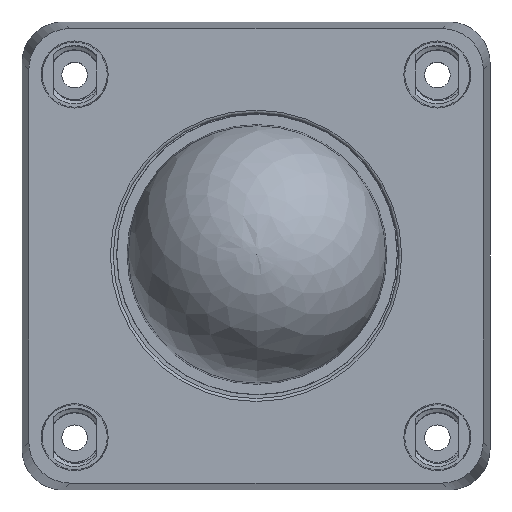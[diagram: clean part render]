
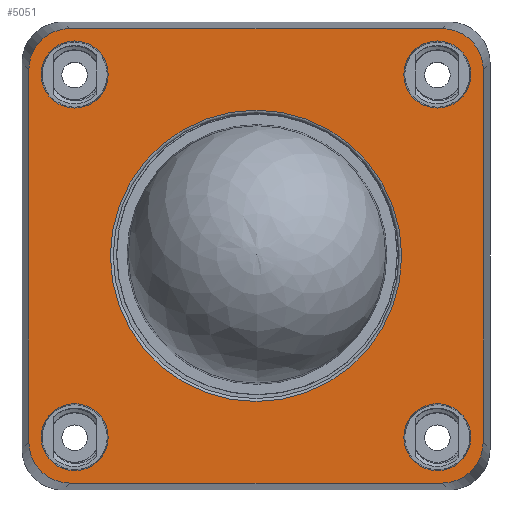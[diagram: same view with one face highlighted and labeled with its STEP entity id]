
A CAD part, top view. The second image highlights one B-rep face of the part: STEP entity #5051.
In plain terms, the highlighted planar face has unit normal (0, 0, 1).
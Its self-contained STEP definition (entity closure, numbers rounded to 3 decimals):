
#4442 = EDGE_CURVE('',#4443,#4445,#4447,.T.);
#4443 = VERTEX_POINT('',#4444);
#4444 = CARTESIAN_POINT('',(-38.998,-32.106,
    -26.9));
#4445 = VERTEX_POINT('',#4446);
#4446 = CARTESIAN_POINT('',(-38.998,31.603,
    -26.9));
#4447 = LINE('',#4448,#4449);
#4448 = CARTESIAN_POINT('',(-38.998,-39.085,
    -26.9));
#4449 = VECTOR('',#4450,1.);
#4450 = DIRECTION('',(0.,1.,0.));
#4475 = VERTEX_POINT('',#4476);
#4476 = CARTESIAN_POINT('',(-32.019,-39.085,
    -26.9));
#4482 = EDGE_CURVE('',#4443,#4475,#4483,.T.);
#4483 = ELLIPSE('',#4484,7.042,7.);
#4484 = AXIS2_PLACEMENT_3D('',#4485,#4486,#4487);
#4485 = CARTESIAN_POINT('',(-31.977,-32.063,
    -26.9));
#4486 = DIRECTION('',(0.,-0.,1.));
#4487 = DIRECTION('',(0.707,0.707,0.));
#4498 = EDGE_CURVE('',#4445,#4499,#4501,.T.);
#4499 = VERTEX_POINT('',#4500);
#4500 = CARTESIAN_POINT('',(-32.019,38.581,
    -26.9));
#4501 = ELLIPSE('',#4502,7.042,7.);
#4502 = AXIS2_PLACEMENT_3D('',#4503,#4504,#4505);
#4503 = CARTESIAN_POINT('',(-31.977,31.56,
    -26.9));
#4504 = DIRECTION('',(0.,0.,-1.));
#4505 = DIRECTION('',(-0.707,0.707,0.));
#4523 = EDGE_CURVE('',#4524,#4475,#4526,.T.);
#4524 = VERTEX_POINT('',#4525);
#4525 = CARTESIAN_POINT('',(31.689,-39.085,
    -26.9));
#4526 = LINE('',#4527,#4528);
#4527 = CARTESIAN_POINT('',(38.668,-39.085,
    -26.9));
#4528 = VECTOR('',#4529,1.);
#4529 = DIRECTION('',(-1.,0.,0.));
#4547 = EDGE_CURVE('',#4499,#4548,#4550,.T.);
#4548 = VERTEX_POINT('',#4549);
#4549 = CARTESIAN_POINT('',(31.689,38.581,
    -26.9));
#4550 = LINE('',#4551,#4552);
#4551 = CARTESIAN_POINT('',(-38.998,38.581,
    -26.9));
#4552 = VECTOR('',#4553,1.);
#4553 = DIRECTION('',(1.,0.,0.));
#4571 = EDGE_CURVE('',#4572,#4524,#4574,.T.);
#4572 = VERTEX_POINT('',#4573);
#4573 = CARTESIAN_POINT('',(38.668,-32.106,
    -26.9));
#4574 = ELLIPSE('',#4575,7.042,7.);
#4575 = AXIS2_PLACEMENT_3D('',#4576,#4577,#4578);
#4576 = CARTESIAN_POINT('',(31.647,-32.063,
    -26.9));
#4577 = DIRECTION('',(0.,-0.,-1.));
#4578 = DIRECTION('',(0.707,-0.707,0.));
#4597 = EDGE_CURVE('',#4548,#4598,#4600,.T.);
#4598 = VERTEX_POINT('',#4599);
#4599 = CARTESIAN_POINT('',(38.668,31.603,
    -26.9));
#4600 = ELLIPSE('',#4601,7.042,7.);
#4601 = AXIS2_PLACEMENT_3D('',#4602,#4603,#4604);
#4602 = CARTESIAN_POINT('',(31.647,31.56,
    -26.9));
#4603 = DIRECTION('',(-0.,0.,-1.));
#4604 = DIRECTION('',(-0.707,-0.707,0.));
#4621 = EDGE_CURVE('',#4598,#4572,#4622,.T.);
#4622 = LINE('',#4623,#4624);
#4623 = CARTESIAN_POINT('',(38.668,38.581,
    -26.9));
#4624 = VECTOR('',#4625,1.);
#4625 = DIRECTION('',(0.,-1.,0.));
#5051 = ADVANCED_FACE('',(#5052,#5062,#5073,#5084,#5095,#5106),#5117,.T.
  );
#5052 = FACE_BOUND('',#5053,.T.);
#5053 = EDGE_LOOP('',(#5054,#5055,#5056,#5057,#5058,#5059,#5060,#5061));
#5054 = ORIENTED_EDGE('',*,*,#4442,.F.);
#5055 = ORIENTED_EDGE('',*,*,#4482,.T.);
#5056 = ORIENTED_EDGE('',*,*,#4523,.F.);
#5057 = ORIENTED_EDGE('',*,*,#4571,.F.);
#5058 = ORIENTED_EDGE('',*,*,#4621,.F.);
#5059 = ORIENTED_EDGE('',*,*,#4597,.F.);
#5060 = ORIENTED_EDGE('',*,*,#4547,.F.);
#5061 = ORIENTED_EDGE('',*,*,#4498,.F.);
#5062 = FACE_BOUND('',#5063,.T.);
#5063 = EDGE_LOOP('',(#5064));
#5064 = ORIENTED_EDGE('',*,*,#5065,.T.);
#5065 = EDGE_CURVE('',#5066,#5066,#5068,.T.);
#5066 = VERTEX_POINT('',#5067);
#5067 = CARTESIAN_POINT('',(30.835,25.02,
    -26.9));
#5068 = CIRCLE('',#5069,5.729);
#5069 = AXIS2_PLACEMENT_3D('',#5070,#5071,#5072);
#5070 = CARTESIAN_POINT('',(30.835,30.748,
    -26.9));
#5071 = DIRECTION('',(0.,0.,-1.));
#5072 = DIRECTION('',(0.,-1.,0.));
#5073 = FACE_BOUND('',#5074,.T.);
#5074 = EDGE_LOOP('',(#5075));
#5075 = ORIENTED_EDGE('',*,*,#5076,.T.);
#5076 = EDGE_CURVE('',#5077,#5077,#5079,.T.);
#5077 = VERTEX_POINT('',#5078);
#5078 = CARTESIAN_POINT('',(24.735,-0.252,
    -26.9));
#5079 = CIRCLE('',#5080,24.9);
#5080 = AXIS2_PLACEMENT_3D('',#5081,#5082,#5083);
#5081 = CARTESIAN_POINT('',(-0.165,-0.252,
    -26.9));
#5082 = DIRECTION('',(0.,0.,-1.));
#5083 = DIRECTION('',(1.,0.,0.));
#5084 = FACE_BOUND('',#5085,.T.);
#5085 = EDGE_LOOP('',(#5086));
#5086 = ORIENTED_EDGE('',*,*,#5087,.T.);
#5087 = EDGE_CURVE('',#5088,#5088,#5090,.T.);
#5088 = VERTEX_POINT('',#5089);
#5089 = CARTESIAN_POINT('',(-31.165,25.02,
    -26.9));
#5090 = CIRCLE('',#5091,5.729);
#5091 = AXIS2_PLACEMENT_3D('',#5092,#5093,#5094);
#5092 = CARTESIAN_POINT('',(-31.165,30.748,
    -26.9));
#5093 = DIRECTION('',(0.,0.,-1.));
#5094 = DIRECTION('',(0.,-1.,0.));
#5095 = FACE_BOUND('',#5096,.T.);
#5096 = EDGE_LOOP('',(#5097));
#5097 = ORIENTED_EDGE('',*,*,#5098,.T.);
#5098 = EDGE_CURVE('',#5099,#5099,#5101,.T.);
#5099 = VERTEX_POINT('',#5100);
#5100 = CARTESIAN_POINT('',(30.835,-36.98,
    -26.9));
#5101 = CIRCLE('',#5102,5.729);
#5102 = AXIS2_PLACEMENT_3D('',#5103,#5104,#5105);
#5103 = CARTESIAN_POINT('',(30.835,-31.252,
    -26.9));
#5104 = DIRECTION('',(0.,0.,-1.));
#5105 = DIRECTION('',(0.,-1.,0.));
#5106 = FACE_BOUND('',#5107,.T.);
#5107 = EDGE_LOOP('',(#5108));
#5108 = ORIENTED_EDGE('',*,*,#5109,.T.);
#5109 = EDGE_CURVE('',#5110,#5110,#5112,.T.);
#5110 = VERTEX_POINT('',#5111);
#5111 = CARTESIAN_POINT('',(-31.165,-36.98,
    -26.9));
#5112 = CIRCLE('',#5113,5.729);
#5113 = AXIS2_PLACEMENT_3D('',#5114,#5115,#5116);
#5114 = CARTESIAN_POINT('',(-31.165,-31.252,
    -26.9));
#5115 = DIRECTION('',(0.,0.,-1.));
#5116 = DIRECTION('',(0.,-1.,-0.));
#5117 = PLANE('',#5118);
#5118 = AXIS2_PLACEMENT_3D('',#5119,#5120,#5121);
#5119 = CARTESIAN_POINT('',(-0.165,-0.252,
    -26.9));
#5120 = DIRECTION('',(0.,0.,1.));
#5121 = DIRECTION('',(-1.,0.,0.));
